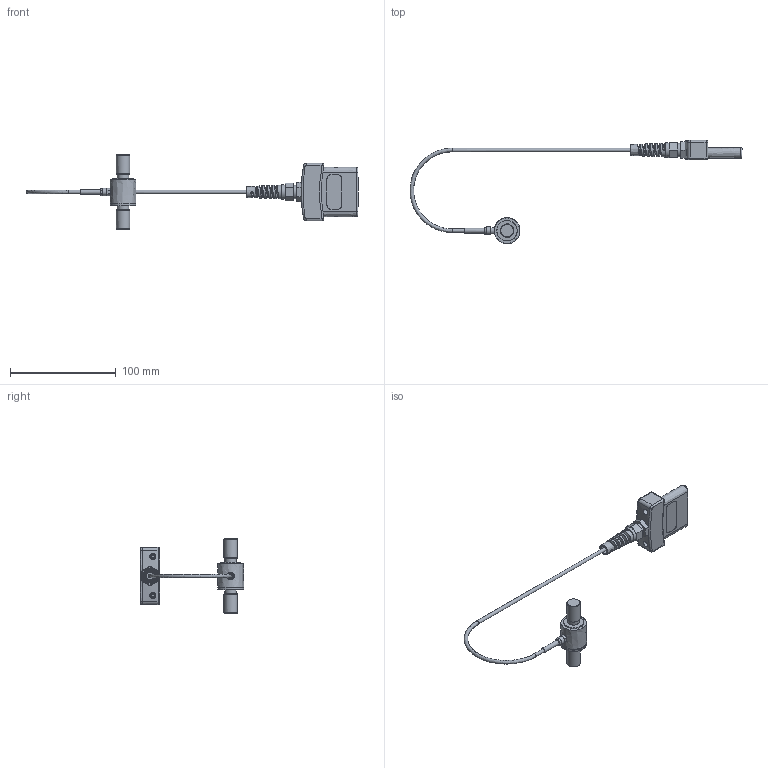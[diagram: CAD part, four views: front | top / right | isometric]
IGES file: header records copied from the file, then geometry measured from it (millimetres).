
Global section: file name: MR08-5000, SENSOR; native system: Autodesk RealDWG; preprocessor: Autodesk Translation Framework DWG producer (atf_dwg_producer); organization: unknown; date: 20240716.114601; units: inch
Bounding box: 313.78 x 97.55 x 70.36 mm (x, y, z)
Volume: 56811.8 mm3; surface area: 22742.6 mm2
Topology: 2 solids, 2 shells, 346 faces, 844 edges, 532 vertices
Faces by surface type: bspline 346
